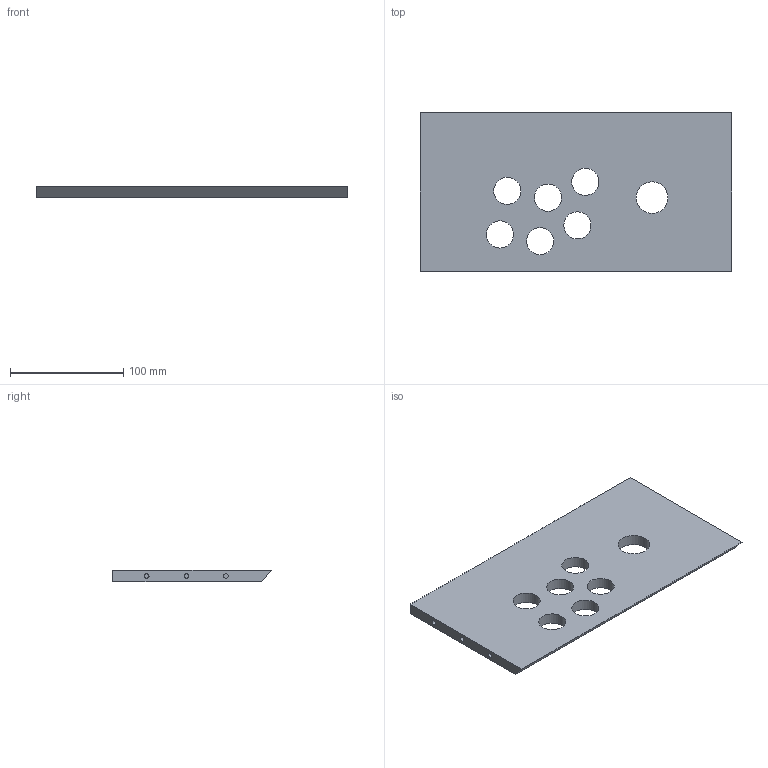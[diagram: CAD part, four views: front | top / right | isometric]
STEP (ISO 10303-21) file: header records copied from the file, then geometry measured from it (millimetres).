
FILE_DESCRIPTION(('FreeCAD Model'),'2;1');
FILE_NAME( '/home/bluelambda/Documents/Arcade/cad/step/control_panel.step', '2016-04-10T12:58:12',('Author'),(''), 'Open CASCADE STEP processor 6.9','FreeCAD','Unknown');
FILE_SCHEMA(('AUTOMOTIVE_DESIGN { 1 0 10303 214 1 1 1 1 }'));
Length unit declared in the file: millimetre
Products named in the file (1): control_panel
Bounding box: 275 x 140 x 10 mm (x, y, z)
Volume: 339407.5 mm3; surface area: 83245.8 mm2
Topology: 1 solids, 1 shells, 25 faces, 51 edges, 34 vertices
Faces by surface type: cylinder 13, plane 12
Full cylindrical faces by diameter (mm): 4 x6, 24 x6, 28 x1
Entity records: 1423 total; most frequent: CARTESIAN_POINT 299, DIRECTION 215, ORIENTED_EDGE 102, PCURVE 102, DEFINITIONAL_REPRESENTATION 102, LINE 99, VECTOR 99, AXIS2_PLACEMENT_3D 52
